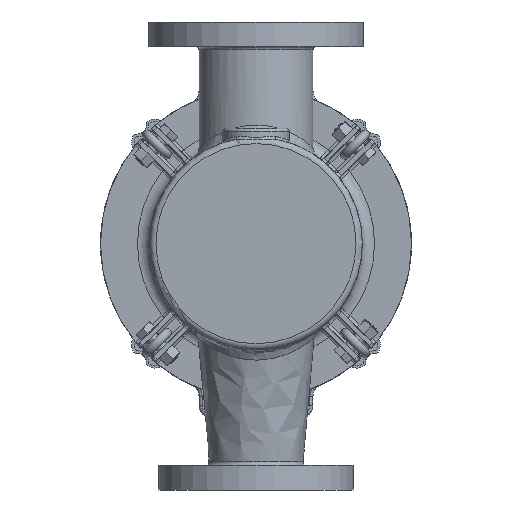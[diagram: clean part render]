
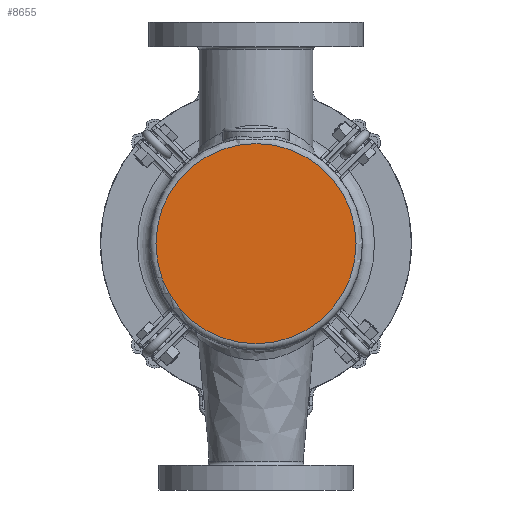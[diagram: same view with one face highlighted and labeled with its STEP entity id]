
A CAD part, front view. The second image highlights one B-rep face of the part: STEP entity #8655.
In plain terms, the highlighted planar face has unit normal (0, -1, 0).
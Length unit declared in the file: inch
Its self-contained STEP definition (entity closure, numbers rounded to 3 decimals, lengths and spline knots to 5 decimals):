
#1144=PLANE('',#9247);
#1890=FACE_OUTER_BOUND('',#2457,.T.);
#2457=EDGE_LOOP('',(#5807));
#3174=CIRCLE('',#9239,4.0625);
#3759=VERTEX_POINT('',#13427);
#4553=EDGE_CURVE('',#3759,#3759,#3174,.T.);
#5807=ORIENTED_EDGE('',*,*,#4553,.F.);
#8655=ADVANCED_FACE('',(#1890),#1144,.F.);
#9239=AXIS2_PLACEMENT_3D('',#13428,#10430,#10431);
#9247=AXIS2_PLACEMENT_3D('',#13439,#10446,#10447);
#10430=DIRECTION('center_axis',(0.,1.,0.));
#10431=DIRECTION('ref_axis',(1.,0.,0.));
#10446=DIRECTION('center_axis',(0.,1.,0.));
#10447=DIRECTION('ref_axis',(0.,0.,1.));
#13427=CARTESIAN_POINT('',(-4.0625,0.,0.));
#13428=CARTESIAN_POINT('Origin',(0.,0.,0.));
#13439=CARTESIAN_POINT('Origin',(0.,0.,0.));
